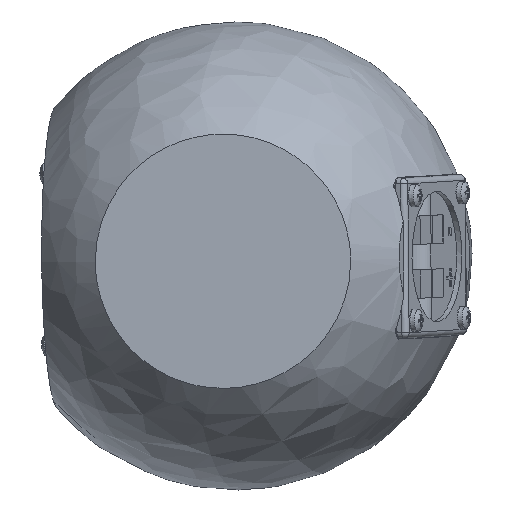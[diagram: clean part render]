
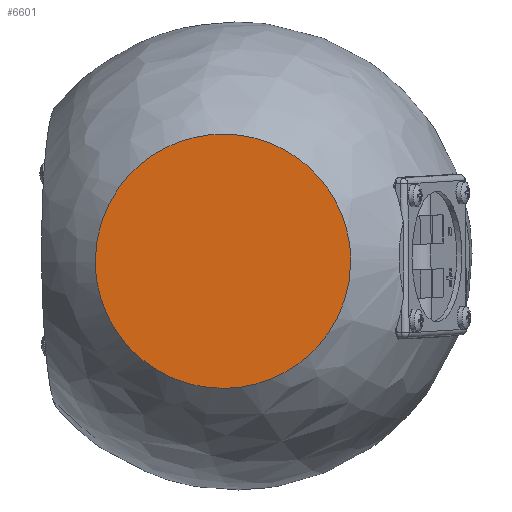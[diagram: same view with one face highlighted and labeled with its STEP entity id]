
A CAD part, front view. The second image highlights one B-rep face of the part: STEP entity #6601.
In plain terms, the highlighted planar face has unit normal (0, -1, -0.021) as drawn and (0, -1, 0) by its records, which use the part's own axes.
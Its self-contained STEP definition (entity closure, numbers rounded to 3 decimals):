
#255=PLANE('',#7237);
#501=B_SPLINE_CURVE_WITH_KNOTS('',3,(#10531,#10532,#10533,#10534,#10535,
#10536,#10537,#10538,#10539,#10540,#10541,#10542,#10543,#10544,#10545,#10546,
#10547,#10548,#10549,#10550),.UNSPECIFIED.,.F.,.F.,(4,2,2,2,2,2,2,2,2,4),
(-25.613,-24.399,-22.709,-21.024,
-19.33,-17.627,-15.918,-14.203,
-12.478,-11.463),.UNSPECIFIED.);
#502=B_SPLINE_CURVE_WITH_KNOTS('',3,(#10551,#10552,#10553,#10554,#10555,
#10556,#10557,#10558,#10559,#10560,#10561,#10562,#10563,#10564,#10565,#10566,
#10567,#10568,#10569,#10570,#10571,#10572,#10573),.UNSPECIFIED.,.F.,.F.,
(4,2,2,2,2,2,2,3,2,2,4),(-11.463,-10.733,-8.961,
-7.16,-5.369,-3.574,-1.782,
0.,1.107,2.176,2.686),.UNSPECIFIED.);
#692=FACE_OUTER_BOUND('',#1076,.T.);
#1076=EDGE_LOOP('',(#4753,#4754));
#2969=VERTEX_POINT('',#10526);
#2970=VERTEX_POINT('',#10530);
#3651=EDGE_CURVE('',#2969,#2970,#501,.T.);
#3652=EDGE_CURVE('',#2970,#2969,#502,.T.);
#4753=ORIENTED_EDGE('',*,*,#3651,.F.);
#4754=ORIENTED_EDGE('',*,*,#3652,.F.);
#6601=ADVANCED_FACE('',(#692),#255,.F.);
#7237=AXIS2_PLACEMENT_3D('',#10715,#7944,#7945);
#7944=DIRECTION('center_axis',(0.,1.,0.));
#7945=DIRECTION('ref_axis',(-1.,0.,0.));
#10526=CARTESIAN_POINT('',(-32.299,15.,0.));
#10530=CARTESIAN_POINT('',(57.739,15.,0.));
#10531=CARTESIAN_POINT('Ctrl Pts',(-32.299,15.,0.));
#10532=CARTESIAN_POINT('Ctrl Pts',(-32.299,15.,4.03));
#10533=CARTESIAN_POINT('Ctrl Pts',(-31.753,15.,8.049));
#10534=CARTESIAN_POINT('Ctrl Pts',(-29.159,15.,17.374));
#10535=CARTESIAN_POINT('Ctrl Pts',(-26.637,15.,22.466));
#10536=CARTESIAN_POINT('Ctrl Pts',(-19.845,15.,31.435));
#10537=CARTESIAN_POINT('Ctrl Pts',(-15.643,15.,35.236));
#10538=CARTESIAN_POINT('Ctrl Pts',(-6.033,15.,41.112));
#10539=CARTESIAN_POINT('Ctrl Pts',(-0.703,15.,
43.127));
#10540=CARTESIAN_POINT('Ctrl Pts',(10.451,15.,45.095));
#10541=CARTESIAN_POINT('Ctrl Pts',(16.181,15.,45.02));
#10542=CARTESIAN_POINT('Ctrl Pts',(27.329,15.,42.75));
#10543=CARTESIAN_POINT('Ctrl Pts',(32.648,15.,40.568));
#10544=CARTESIAN_POINT('Ctrl Pts',(42.204,15.,34.328));
#10545=CARTESIAN_POINT('Ctrl Pts',(46.351,15.,30.321));
#10546=CARTESIAN_POINT('Ctrl Pts',(52.936,15.,20.936));
#10547=CARTESIAN_POINT('Ctrl Pts',(55.301,15.,15.637));
#10548=CARTESIAN_POINT('Ctrl Pts',(57.357,15.,6.736));
#10549=CARTESIAN_POINT('Ctrl Pts',(57.739,15.,3.369));
#10550=CARTESIAN_POINT('Ctrl Pts',(57.739,15.,0.));
#10551=CARTESIAN_POINT('Ctrl Pts',(57.739,15.,0.));
#10552=CARTESIAN_POINT('Ctrl Pts',(57.739,15.,-2.419));
#10553=CARTESIAN_POINT('Ctrl Pts',(57.542,15.,-4.84));
#10554=CARTESIAN_POINT('Ctrl Pts',(56.188,15.,-13.067));
#10555=CARTESIAN_POINT('Ctrl Pts',(54.081,15.,-18.646));
#10556=CARTESIAN_POINT('Ctrl Pts',(47.769,15.,-28.747));
#10557=CARTESIAN_POINT('Ctrl Pts',(43.595,15.,-33.146));
#10558=CARTESIAN_POINT('Ctrl Pts',(33.795,15.,-40.03));
#10559=CARTESIAN_POINT('Ctrl Pts',(28.273,15.,-42.457));
#10560=CARTESIAN_POINT('Ctrl Pts',(16.595,15.,-45.026));
#10561=CARTESIAN_POINT('Ctrl Pts',(10.552,15.,-45.139));
#10562=CARTESIAN_POINT('Ctrl Pts',(-1.213,15.,-43.01));
#10563=CARTESIAN_POINT('Ctrl Pts',(-6.821,15.,-40.793));
#10564=CARTESIAN_POINT('Ctrl Pts',(-16.821,15.,-34.319));
#10565=CARTESIAN_POINT('Ctrl Pts',(-21.12,15.,-30.134));
#10566=CARTESIAN_POINT('Ctrl Pts',(-24.478,15.,-25.233));
#10567=CARTESIAN_POINT('Ctrl Pts',(-26.565,15.,-22.187));
#10568=CARTESIAN_POINT('Ctrl Pts',(-28.266,15.,-18.896));
#10569=CARTESIAN_POINT('Ctrl Pts',(-30.776,15.,-12.09));
#10570=CARTESIAN_POINT('Ctrl Pts',(-31.604,15.,-8.613));
#10571=CARTESIAN_POINT('Ctrl Pts',(-32.203,15.,-3.386));
#10572=CARTESIAN_POINT('Ctrl Pts',(-32.299,15.,-1.692));
#10573=CARTESIAN_POINT('Ctrl Pts',(-32.299,15.,0.));
#10715=CARTESIAN_POINT('Origin',(57.739,15.,0.));
